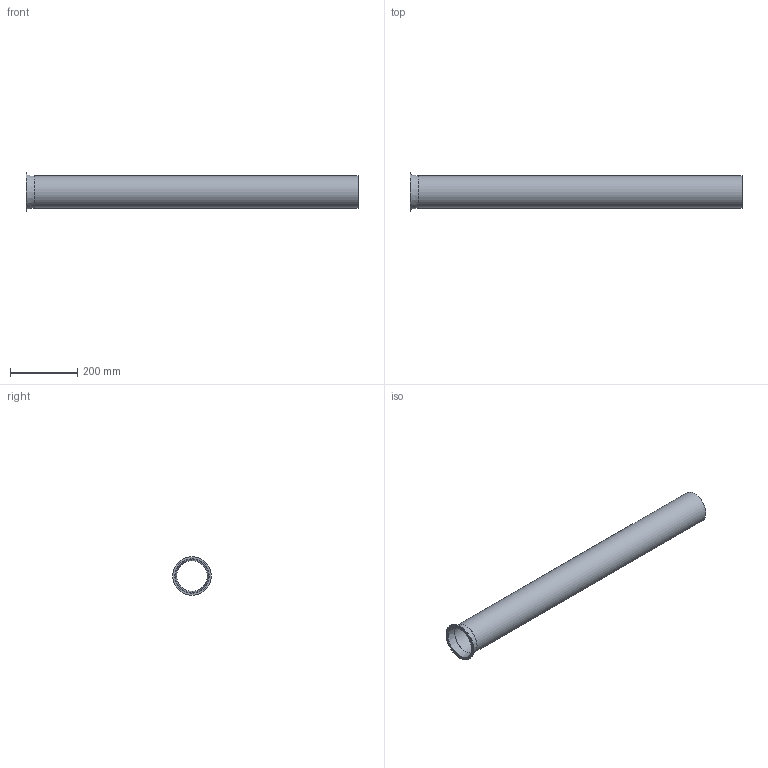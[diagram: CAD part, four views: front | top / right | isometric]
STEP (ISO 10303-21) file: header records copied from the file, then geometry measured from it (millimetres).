
FILE_DESCRIPTION((''),'2;1');
FILE_NAME('U:\Wolfgang\Marcel-3D\fertig\Kapitel 1\1011006.stp','2010-05-31T10:57:45',('TK2'),(''),'Autodesk Inventor 2010','Autodesk Inventor 2010','');
FILE_SCHEMA(('AUTOMOTIVE_DESIGN { 1 0 10303 214 1 1 1 1 }'));
Length unit declared in the file: millimetre
Products named in the file (1): 1011006
Bounding box: 991 x 115 x 115 mm (x, y, z)
Volume: 590084.7 mm3; surface area: 591386.8 mm2
Topology: 1 solids, 1 shells, 8 faces, 14 edges, 9 vertices
Faces by surface type: cylinder 3, plane 3, cone 2
Full cylindrical faces by diameter (mm): 92 x1, 96 x1, 115 x1
Entity records: 194 total; most frequent: DIRECTION 34, CARTESIAN_POINT 25, AXIS2_PLACEMENT_3D 17, ORIENTED_EDGE 16, EDGE_LOOP 16, VERTEX_POINT 8, CIRCLE 8, EDGE_CURVE 8
